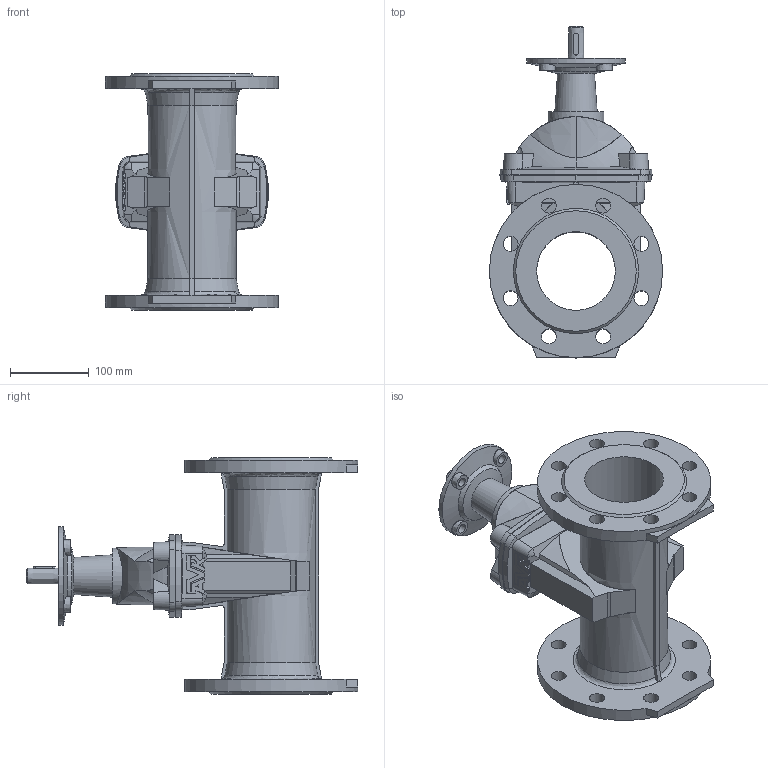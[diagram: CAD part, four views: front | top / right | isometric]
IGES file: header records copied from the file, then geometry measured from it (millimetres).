
Start section: SolidWorks IGES file using analytic representation for surfaces
Global section: file name: \\avksan2\techshare\PBM outline export from Enovia\O_15_72_DN100_X1XXX099_AA0.igs; native system: SolidWorks 2012; preprocessor: SolidWorks 2012; author: pbm; date: 170310.095248; units: inch
Bounding box: 220 x 421.43 x 300 mm (x, y, z)
Surface area: 502670.3 mm2 (no closed solid volume)
Topology: 0 solids, 0 shells, 338 faces, 1904 edges, 1816 vertices
Faces by surface type: revolution 195, bspline 143
